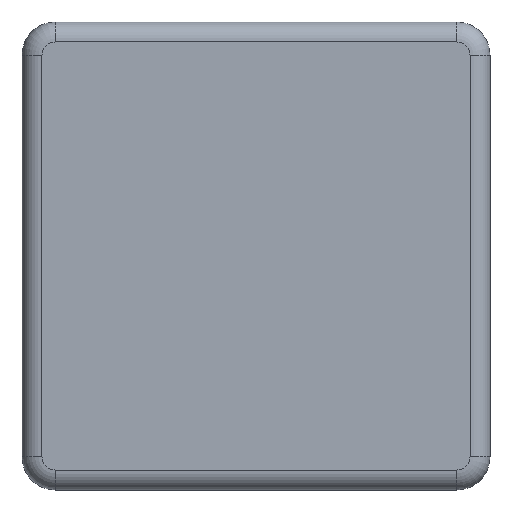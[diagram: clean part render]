
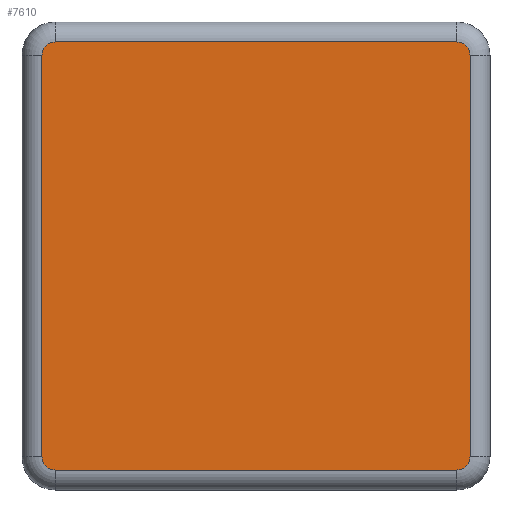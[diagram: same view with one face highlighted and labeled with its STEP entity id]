
A CAD part, front view. The second image highlights one B-rep face of the part: STEP entity #7610.
In plain terms, the highlighted planar face has unit normal (0, -1, 0).
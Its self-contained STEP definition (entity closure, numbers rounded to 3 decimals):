
#129 = VECTOR ( 'NONE', #2688, 1000. ) ;
#143 = CARTESIAN_POINT ( 'NONE',  ( -32.25, 0., -30.25 ) ) ;
#451 = PLANE ( 'NONE',  #3392 ) ;
#498 = CARTESIAN_POINT ( 'NONE',  ( -30.25, 0., 30.25 ) ) ;
#688 = EDGE_CURVE ( 'NONE', #9520, #6380, #5831, .T. ) ;
#778 = DIRECTION ( 'NONE',  ( 0., 0., -1. ) ) ;
#799 = CARTESIAN_POINT ( 'NONE',  ( 30.25, 0., 32.25 ) ) ;
#947 = EDGE_CURVE ( 'NONE', #7180, #1022, #7351, .T. ) ;
#970 = CARTESIAN_POINT ( 'NONE',  ( -30.25, 0., 30.25 ) ) ;
#1022 = VERTEX_POINT ( 'NONE', #10474 ) ;
#1270 = DIRECTION ( 'NONE',  ( 0., -1., 0. ) ) ;
#1503 = DIRECTION ( 'NONE',  ( 1., 0., 0. ) ) ;
#1643 = CARTESIAN_POINT ( 'NONE',  ( -30.25, 0., -30.25 ) ) ;
#1702 = CIRCLE ( 'NONE', #11108, 2. ) ;
#1822 = DIRECTION ( 'NONE',  ( 0., 0., -1. ) ) ;
#1906 = ORIENTED_EDGE ( 'NONE', *, *, #3563, .T. ) ;
#2012 = CARTESIAN_POINT ( 'NONE',  ( 30.25, 0., -32.25 ) ) ;
#2225 = DIRECTION ( 'NONE',  ( 0., -1., 0. ) ) ;
#2312 = EDGE_CURVE ( 'NONE', #1022, #10947, #1702, .T. ) ;
#2562 = LINE ( 'NONE', #7673, #4643 ) ;
#2688 = DIRECTION ( 'NONE',  ( -1., 0., 0. ) ) ;
#2959 = AXIS2_PLACEMENT_3D ( 'NONE', #6551, #1270, #7432 ) ;
#2992 = ORIENTED_EDGE ( 'NONE', *, *, #4954, .T. ) ;
#3392 = AXIS2_PLACEMENT_3D ( 'NONE', #498, #2225, #8416 ) ;
#3563 = EDGE_CURVE ( 'NONE', #9364, #6367, #5434, .T. ) ;
#3943 = AXIS2_PLACEMENT_3D ( 'NONE', #970, #7124, #1822 ) ;
#4050 = AXIS2_PLACEMENT_3D ( 'NONE', #1643, #6928, #778 ) ;
#4643 = VECTOR ( 'NONE', #1503, 1000. ) ;
#4791 = LINE ( 'NONE', #7989, #129 ) ;
#4886 = CARTESIAN_POINT ( 'NONE',  ( 30.25, 0., 30.25 ) ) ;
#4954 = EDGE_CURVE ( 'NONE', #6380, #9020, #2562, .T. ) ;
#5003 = VECTOR ( 'NONE', #10774, 1000. ) ;
#5306 = DIRECTION ( 'NONE',  ( 0., 0., -1. ) ) ;
#5434 = CIRCLE ( 'NONE', #3943, 2. ) ;
#5449 = CARTESIAN_POINT ( 'NONE',  ( 32.25, 0., 30.25 ) ) ;
#5831 = CIRCLE ( 'NONE', #4050, 2. ) ;
#5897 = ORIENTED_EDGE ( 'NONE', *, *, #947, .T. ) ;
#6034 = DIRECTION ( 'NONE',  ( 0., -1., 0. ) ) ;
#6104 = CARTESIAN_POINT ( 'NONE',  ( -30.25, 0., 32.25 ) ) ;
#6367 = VERTEX_POINT ( 'NONE', #6621 ) ;
#6380 = VERTEX_POINT ( 'NONE', #10223 ) ;
#6551 = CARTESIAN_POINT ( 'NONE',  ( 30.25, 0., -30.25 ) ) ;
#6621 = CARTESIAN_POINT ( 'NONE',  ( -32.25, 0., 30.25 ) ) ;
#6928 = DIRECTION ( 'NONE',  ( 0., -1., 0. ) ) ;
#7057 = ORIENTED_EDGE ( 'NONE', *, *, #8084, .T. ) ;
#7124 = DIRECTION ( 'NONE',  ( 0., -1., 0. ) ) ;
#7180 = VERTEX_POINT ( 'NONE', #7782 ) ;
#7351 = LINE ( 'NONE', #5449, #5003 ) ;
#7432 = DIRECTION ( 'NONE',  ( 0., 0., -1. ) ) ;
#7489 = ORIENTED_EDGE ( 'NONE', *, *, #7844, .T. ) ;
#7565 = EDGE_LOOP ( 'NONE', ( #7489, #11219, #2992, #7057, #5897, #7979, #10597, #1906 ) ) ;
#7610 = ADVANCED_FACE ( 'NONE', ( #10189 ), #451, .T. ) ;
#7673 = CARTESIAN_POINT ( 'NONE',  ( 30.25, 0., -32.25 ) ) ;
#7782 = CARTESIAN_POINT ( 'NONE',  ( 32.25, 0., -30.25 ) ) ;
#7844 = EDGE_CURVE ( 'NONE', #6367, #9520, #10935, .T. ) ;
#7979 = ORIENTED_EDGE ( 'NONE', *, *, #2312, .T. ) ;
#7989 = CARTESIAN_POINT ( 'NONE',  ( -30.25, 0., 32.25 ) ) ;
#8084 = EDGE_CURVE ( 'NONE', #9020, #7180, #10217, .T. ) ;
#8398 = EDGE_CURVE ( 'NONE', #10947, #9364, #4791, .T. ) ;
#8416 = DIRECTION ( 'NONE',  ( 0., 0., -1. ) ) ;
#9020 = VERTEX_POINT ( 'NONE', #2012 ) ;
#9364 = VERTEX_POINT ( 'NONE', #6104 ) ;
#9520 = VERTEX_POINT ( 'NONE', #143 ) ;
#10090 = VECTOR ( 'NONE', #5306, 1000. ) ;
#10189 = FACE_OUTER_BOUND ( 'NONE', #7565, .T. ) ;
#10217 = CIRCLE ( 'NONE', #2959, 2. ) ;
#10223 = CARTESIAN_POINT ( 'NONE',  ( -30.25, 0., -32.25 ) ) ;
#10474 = CARTESIAN_POINT ( 'NONE',  ( 32.25, 0., 30.25 ) ) ;
#10597 = ORIENTED_EDGE ( 'NONE', *, *, #8398, .T. ) ;
#10635 = CARTESIAN_POINT ( 'NONE',  ( -32.25, 0., -30.25 ) ) ;
#10774 = DIRECTION ( 'NONE',  ( 0., 0., 1. ) ) ;
#10935 = LINE ( 'NONE', #10635, #10090 ) ;
#10947 = VERTEX_POINT ( 'NONE', #799 ) ;
#11108 = AXIS2_PLACEMENT_3D ( 'NONE', #4886, #6034, #11346 ) ;
#11219 = ORIENTED_EDGE ( 'NONE', *, *, #688, .T. ) ;
#11346 = DIRECTION ( 'NONE',  ( 0., 0., -1. ) ) ;
